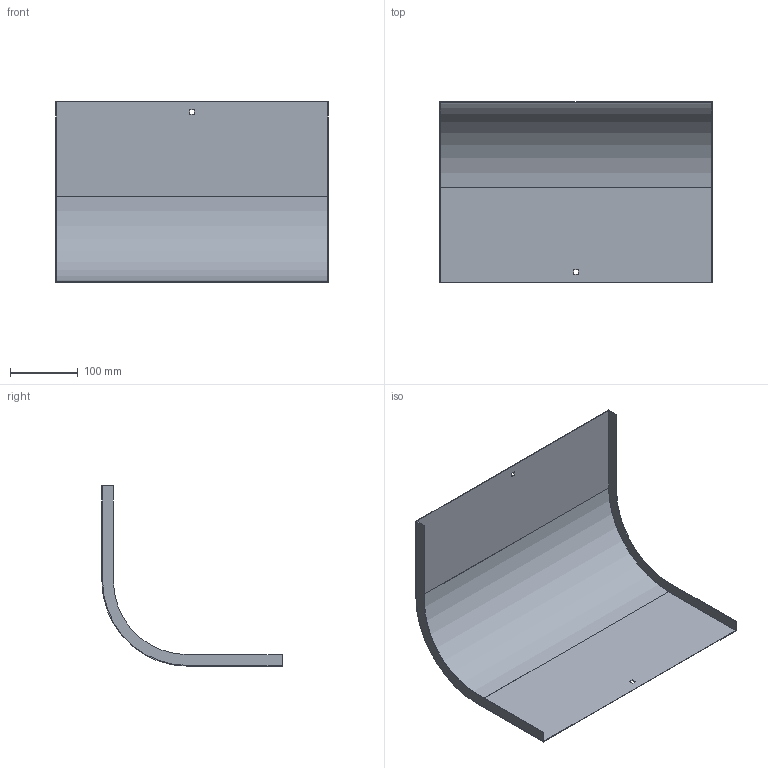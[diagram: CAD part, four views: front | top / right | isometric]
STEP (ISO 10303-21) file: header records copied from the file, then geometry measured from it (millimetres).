
FILE_DESCRIPTION (( 'STEP AP214' ), '1' );
FILE_NAME ('OD9_401.step', '2025-07-16T09:13:26', ( '' ), ( '' ), 'SwSTEP 2.0', 'SolidWorks 2023', '' );
FILE_SCHEMA (( 'AUTOMOTIVE_DESIGN' ));
Length unit declared in the file: millimetre
Products named in the file (1): OD9_401
Bounding box: 402 x 266 x 266 mm (x, y, z)
Volume: 206565.3 mm3; surface area: 414954.6 mm2
Topology: 1 solids, 1 shells, 26 faces, 72 edges, 48 vertices
Faces by surface type: plane 22, cylinder 4
Entity records: 855 total; most frequent: CARTESIAN_POINT 147, ORIENTED_EDGE 144, DIRECTION 134, EDGE_CURVE 72, LINE 64, VECTOR 64, VERTEX_POINT 48, AXIS2_PLACEMENT_3D 35
